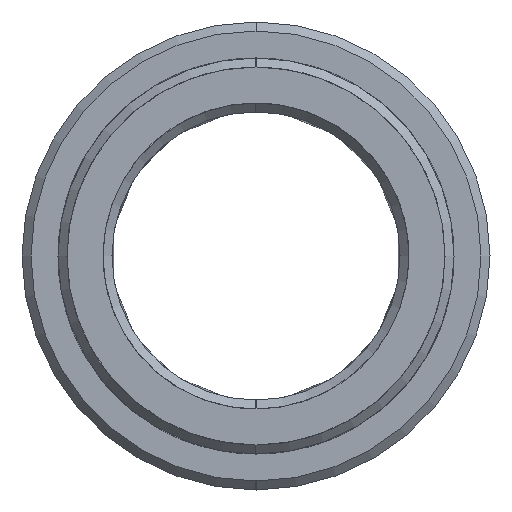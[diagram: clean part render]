
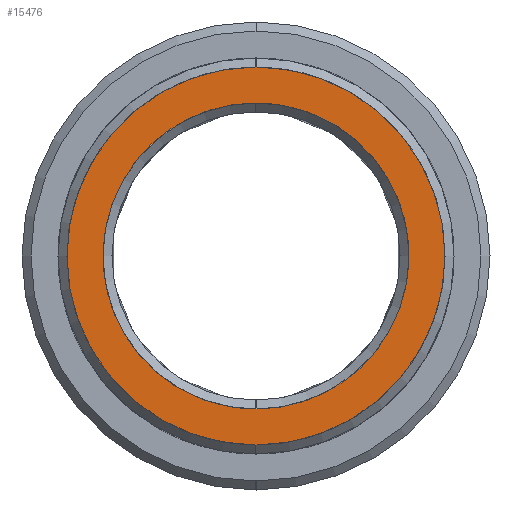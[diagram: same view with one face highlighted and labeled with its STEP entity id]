
A CAD part, left-side view. The second image highlights one B-rep face of the part: STEP entity #15476.
In plain terms, the highlighted planar face has unit normal (1, 0, 0).
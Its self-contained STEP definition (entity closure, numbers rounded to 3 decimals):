
#15351=CARTESIAN_POINT('Axis2P3D Location',(-16.,0.,0.)) ;
#15357=CARTESIAN_POINT('Control Point',(-16.,0.,10.5)) ;
#15358=CARTESIAN_POINT('Control Point',(-16.,1.076,10.5)) ;
#15359=CARTESIAN_POINT('Control Point',(-16.,2.168,10.362)) ;
#15360=CARTESIAN_POINT('Control Point',(-16.,3.25,10.078)) ;
#15361=CARTESIAN_POINT('Control Point',(-16.,5.159,9.291)) ;
#15362=CARTESIAN_POINT('Control Point',(-16.,6.843,8.048)) ;
#15363=CARTESIAN_POINT('Control Point',(-16.,7.545,7.396)) ;
#15364=CARTESIAN_POINT('Control Point',(-16.,8.785,5.945)) ;
#15365=CARTESIAN_POINT('Control Point',(-16.,9.676,4.24)) ;
#15366=CARTESIAN_POINT('Control Point',(-16.,10.022,3.345)) ;
#15367=CARTESIAN_POINT('Control Point',(-16.,10.503,1.489)) ;
#15368=CARTESIAN_POINT('Control Point',(-16.,10.556,-0.431)) ;
#15369=CARTESIAN_POINT('Control Point',(-16.,10.473,-1.389)) ;
#15370=CARTESIAN_POINT('Control Point',(-16.,10.091,-3.272)) ;
#15371=CARTESIAN_POINT('Control Point',(-16.,9.299,-5.015)) ;
#15372=CARTESIAN_POINT('Control Point',(-16.,8.805,-5.838)) ;
#15373=CARTESIAN_POINT('Control Point',(-16.,7.534,-7.496)) ;
#15374=CARTESIAN_POINT('Control Point',(-16.,5.913,-8.785)) ;
#15375=CARTESIAN_POINT('Control Point',(-16.,4.95,-9.359)) ;
#15376=CARTESIAN_POINT('Control Point',(-16.,3.378,-10.034)) ;
#15377=CARTESIAN_POINT('Control Point',(-16.,1.742,-10.38)) ;
#15378=CARTESIAN_POINT('Control Point',(-16.,1.159,-10.46)) ;
#15379=CARTESIAN_POINT('Control Point',(-16.,0.577,-10.5)) ;
#15380=CARTESIAN_POINT('Control Point',(-16.,0.,-10.5)) ;
#15381=CARTESIAN_POINT('Vertex',(-16.,0.,10.5)) ;
#15383=CARTESIAN_POINT('Vertex',(-16.,0.,-10.5)) ;
#15387=CARTESIAN_POINT('Control Point',(-16.,0.,-10.5)) ;
#15388=CARTESIAN_POINT('Control Point',(-16.,-1.076,-10.5)) ;
#15389=CARTESIAN_POINT('Control Point',(-16.,-2.168,-10.362)) ;
#15390=CARTESIAN_POINT('Control Point',(-16.,-3.25,-10.078)) ;
#15391=CARTESIAN_POINT('Control Point',(-16.,-5.159,-9.291)) ;
#15392=CARTESIAN_POINT('Control Point',(-16.,-6.843,-8.048)) ;
#15393=CARTESIAN_POINT('Control Point',(-16.,-7.545,-7.396)) ;
#15394=CARTESIAN_POINT('Control Point',(-16.,-8.785,-5.945)) ;
#15395=CARTESIAN_POINT('Control Point',(-16.,-9.676,-4.24)) ;
#15396=CARTESIAN_POINT('Control Point',(-16.,-10.022,-3.345)) ;
#15397=CARTESIAN_POINT('Control Point',(-16.,-10.503,-1.489)) ;
#15398=CARTESIAN_POINT('Control Point',(-16.,-10.556,0.431)) ;
#15399=CARTESIAN_POINT('Control Point',(-16.,-10.473,1.389)) ;
#15400=CARTESIAN_POINT('Control Point',(-16.,-10.091,3.272)) ;
#15401=CARTESIAN_POINT('Control Point',(-16.,-9.299,5.015)) ;
#15402=CARTESIAN_POINT('Control Point',(-16.,-8.805,5.838)) ;
#15403=CARTESIAN_POINT('Control Point',(-16.,-7.534,7.496)) ;
#15404=CARTESIAN_POINT('Control Point',(-16.,-5.913,8.785)) ;
#15405=CARTESIAN_POINT('Control Point',(-16.,-4.95,9.359)) ;
#15406=CARTESIAN_POINT('Control Point',(-16.,-3.378,10.034)) ;
#15407=CARTESIAN_POINT('Control Point',(-16.,-1.742,10.38)) ;
#15408=CARTESIAN_POINT('Control Point',(-16.,-1.159,10.46)) ;
#15409=CARTESIAN_POINT('Control Point',(-16.,-0.577,10.5)) ;
#15410=CARTESIAN_POINT('Control Point',(-16.,0.,10.5)) ;
#15417=CARTESIAN_POINT('Control Point',(-16.,0.,8.5)) ;
#15418=CARTESIAN_POINT('Control Point',(-16.,0.857,8.5)) ;
#15419=CARTESIAN_POINT('Control Point',(-16.,1.714,8.392)) ;
#15420=CARTESIAN_POINT('Control Point',(-16.,2.553,8.176)) ;
#15421=CARTESIAN_POINT('Control Point',(-16.,4.158,7.537)) ;
#15422=CARTESIAN_POINT('Control Point',(-16.,5.554,6.52)) ;
#15423=CARTESIAN_POINT('Control Point',(-16.,6.184,5.926)) ;
#15424=CARTESIAN_POINT('Control Point',(-16.,7.281,4.591)) ;
#15425=CARTESIAN_POINT('Control Point',(-16.,8.013,3.026)) ;
#15426=CARTESIAN_POINT('Control Point',(-16.,8.277,2.202)) ;
#15427=CARTESIAN_POINT('Control Point',(-16.,8.593,0.503)) ;
#15428=CARTESIAN_POINT('Control Point',(-16.,8.478,-1.22)) ;
#15429=CARTESIAN_POINT('Control Point',(-16.,8.311,-2.07)) ;
#15430=CARTESIAN_POINT('Control Point',(-16.,7.767,-3.71)) ;
#15431=CARTESIAN_POINT('Control Point',(-16.,6.834,-5.164)) ;
#15432=CARTESIAN_POINT('Control Point',(-16.,6.277,-5.827)) ;
#15433=CARTESIAN_POINT('Control Point',(-16.,5.009,-7.)) ;
#15434=CARTESIAN_POINT('Control Point',(-16.,3.49,-7.822)) ;
#15435=CARTESIAN_POINT('Control Point',(-16.,2.682,-8.135)) ;
#15436=CARTESIAN_POINT('Control Point',(-16.,1.649,-8.39)) ;
#15437=CARTESIAN_POINT('Control Point',(-16.,0.597,-8.483)) ;
#15438=CARTESIAN_POINT('Control Point',(-16.,0.398,-8.494)) ;
#15439=CARTESIAN_POINT('Control Point',(-16.,0.199,-8.5)) ;
#15440=CARTESIAN_POINT('Control Point',(-16.,0.,-8.5)) ;
#15441=CARTESIAN_POINT('Vertex',(-16.,0.,8.5)) ;
#15443=CARTESIAN_POINT('Vertex',(-16.,0.,-8.5)) ;
#15447=CARTESIAN_POINT('Control Point',(-16.,0.,-8.5)) ;
#15448=CARTESIAN_POINT('Control Point',(-16.,-0.857,-8.5)) ;
#15449=CARTESIAN_POINT('Control Point',(-16.,-1.714,-8.392)) ;
#15450=CARTESIAN_POINT('Control Point',(-16.,-2.553,-8.176)) ;
#15451=CARTESIAN_POINT('Control Point',(-16.,-4.158,-7.537)) ;
#15452=CARTESIAN_POINT('Control Point',(-16.,-5.554,-6.52)) ;
#15453=CARTESIAN_POINT('Control Point',(-16.,-6.184,-5.926)) ;
#15454=CARTESIAN_POINT('Control Point',(-16.,-7.281,-4.591)) ;
#15455=CARTESIAN_POINT('Control Point',(-16.,-8.013,-3.026)) ;
#15456=CARTESIAN_POINT('Control Point',(-16.,-8.277,-2.202)) ;
#15457=CARTESIAN_POINT('Control Point',(-16.,-8.593,-0.503)) ;
#15458=CARTESIAN_POINT('Control Point',(-16.,-8.478,1.22)) ;
#15459=CARTESIAN_POINT('Control Point',(-16.,-8.311,2.07)) ;
#15460=CARTESIAN_POINT('Control Point',(-16.,-7.767,3.71)) ;
#15461=CARTESIAN_POINT('Control Point',(-16.,-6.834,5.164)) ;
#15462=CARTESIAN_POINT('Control Point',(-16.,-6.277,5.827)) ;
#15463=CARTESIAN_POINT('Control Point',(-16.,-5.009,7.)) ;
#15464=CARTESIAN_POINT('Control Point',(-16.,-3.49,7.822)) ;
#15465=CARTESIAN_POINT('Control Point',(-16.,-2.682,8.135)) ;
#15466=CARTESIAN_POINT('Control Point',(-16.,-1.649,8.39)) ;
#15467=CARTESIAN_POINT('Control Point',(-16.,-0.597,8.483)) ;
#15468=CARTESIAN_POINT('Control Point',(-16.,-0.398,8.494)) ;
#15469=CARTESIAN_POINT('Control Point',(-16.,-0.199,8.5)) ;
#15470=CARTESIAN_POINT('Control Point',(-16.,0.,8.5)) ;
#15352=DIRECTION('Axis2P3D Direction',(1.,0.,0.)) ;
#15353=DIRECTION('Axis2P3D XDirection',(0.,1.,0.)) ;
#15354=AXIS2_PLACEMENT_3D('Plane Axis2P3D',#15351,#15352,#15353) ;
#15413=ORIENTED_EDGE('',*,*,#15385,.F.) ;
#15414=ORIENTED_EDGE('',*,*,#15411,.F.) ;
#15473=ORIENTED_EDGE('',*,*,#15445,.T.) ;
#15474=ORIENTED_EDGE('',*,*,#15471,.T.) ;
#15475=FACE_BOUND('',#15472,.T.) ;
#15476=ADVANCED_FACE('MANIFOLD_SOLID_BREP #8737',(#15415,#15475),#15355,.T.) ;
#15356=B_SPLINE_CURVE_WITH_KNOTS('',5,(#15357,#15358,#15359,#15360,#15361,#15362,#15363,#15364,#15365,#15366,#15367,#15368,#15369,#15370,#15371,#15372,#15373,#15374,#15375,#15376,#15377,#15378,#15379,#15380),.UNSPECIFIED.,.F.,.U.,(6,3,3,3,3,3,3,6),(0.,8.042,14.718,21.299,27.862,34.469,42.349,46.664),.UNSPECIFIED.) ;
#15386=B_SPLINE_CURVE_WITH_KNOTS('',5,(#15387,#15388,#15389,#15390,#15391,#15392,#15393,#15394,#15395,#15396,#15397,#15398,#15399,#15400,#15401,#15402,#15403,#15404,#15405,#15406,#15407,#15408,#15409,#15410),.UNSPECIFIED.,.F.,.U.,(6,3,3,3,3,3,3,6),(0.,8.042,14.718,21.299,27.862,34.469,42.349,46.664),.UNSPECIFIED.) ;
#15416=B_SPLINE_CURVE_WITH_KNOTS('',5,(#15417,#15418,#15419,#15420,#15421,#15422,#15423,#15424,#15425,#15426,#15427,#15428,#15429,#15430,#15431,#15432,#15433,#15434,#15435,#15436,#15437,#15438,#15439,#15440),.UNSPECIFIED.,.F.,.U.,(6,3,3,3,3,3,3,6),(0.,6.06,12.119,18.179,24.239,30.298,36.358,37.764),.UNSPECIFIED.) ;
#15446=B_SPLINE_CURVE_WITH_KNOTS('',5,(#15447,#15448,#15449,#15450,#15451,#15452,#15453,#15454,#15455,#15456,#15457,#15458,#15459,#15460,#15461,#15462,#15463,#15464,#15465,#15466,#15467,#15468,#15469,#15470),.UNSPECIFIED.,.F.,.U.,(6,3,3,3,3,3,3,6),(0.,6.06,12.119,18.179,24.239,30.298,36.358,37.764),.UNSPECIFIED.) ;
#15385=EDGE_CURVE('',#15382,#15384,#15356,.T.) ;
#15411=EDGE_CURVE('',#15384,#15382,#15386,.T.) ;
#15445=EDGE_CURVE('',#15442,#15444,#15416,.T.) ;
#15471=EDGE_CURVE('',#15444,#15442,#15446,.T.) ;
#15412=EDGE_LOOP('',(#15413,#15414)) ;
#15472=EDGE_LOOP('',(#15473,#15474)) ;
#15415=FACE_OUTER_BOUND('',#15412,.T.) ;
#15355=PLANE('Plane',#15354) ;
#15382=VERTEX_POINT('',#15381) ;
#15384=VERTEX_POINT('',#15383) ;
#15442=VERTEX_POINT('',#15441) ;
#15444=VERTEX_POINT('',#15443) ;
